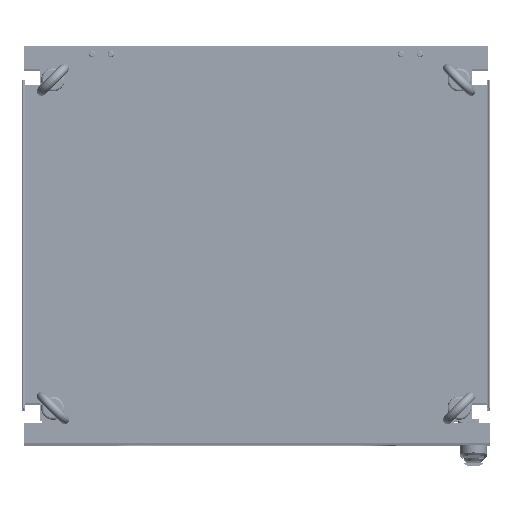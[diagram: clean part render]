
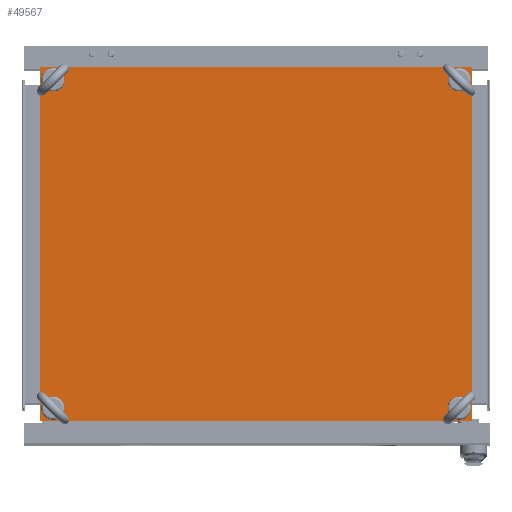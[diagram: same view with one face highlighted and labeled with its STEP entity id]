
A CAD part, top view. The second image highlights one B-rep face of the part: STEP entity #49567.
In plain terms, the highlighted planar face has unit normal (0, 0, 1).
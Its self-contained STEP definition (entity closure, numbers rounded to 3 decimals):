
#72=VERTEX_LOOP('',#34447);
#73=VERTEX_LOOP('',#34448);
#74=VERTEX_LOOP('',#34449);
#75=VERTEX_LOOP('',#34450);
#5651=LINE('',#79245,#10597);
#5652=LINE('',#79248,#10598);
#5653=LINE('',#79250,#10599);
#5654=LINE('',#79252,#10600);
#10597=VECTOR('',#65029,1000.);
#10598=VECTOR('',#65030,1000.);
#10599=VECTOR('',#65031,1000.);
#10600=VECTOR('',#65032,1000.);
#20616=ORIENTED_EDGE('',*,*,#29243,.F.);
#20617=ORIENTED_EDGE('',*,*,#29244,.F.);
#20618=ORIENTED_EDGE('',*,*,#29245,.F.);
#20619=ORIENTED_EDGE('',*,*,#29246,.F.);
#20620=ORIENTED_EDGE('',*,*,#29247,.F.);
#20621=ORIENTED_EDGE('',*,*,#29248,.F.);
#20622=ORIENTED_EDGE('',*,*,#29249,.F.);
#20623=ORIENTED_EDGE('',*,*,#29250,.F.);
#29243=EDGE_CURVE('',#34443,#34443,#36636,.T.);
#29244=EDGE_CURVE('',#34444,#34444,#36637,.T.);
#29245=EDGE_CURVE('',#34445,#34445,#36638,.T.);
#29246=EDGE_CURVE('',#34446,#34446,#36639,.T.);
#29247=EDGE_CURVE('',#34451,#34452,#5651,.T.);
#29248=EDGE_CURVE('',#34453,#34451,#5652,.T.);
#29249=EDGE_CURVE('',#34454,#34453,#5653,.T.);
#29250=EDGE_CURVE('',#34452,#34454,#5654,.T.);
#34443=VERTEX_POINT('',#79234);
#34444=VERTEX_POINT('',#79236);
#34445=VERTEX_POINT('',#79238);
#34446=VERTEX_POINT('',#79240);
#34447=VERTEX_POINT('',#79241);
#34448=VERTEX_POINT('',#79242);
#34449=VERTEX_POINT('',#79243);
#34450=VERTEX_POINT('',#79244);
#34451=VERTEX_POINT('',#79246);
#34452=VERTEX_POINT('',#79247);
#34453=VERTEX_POINT('',#79249);
#34454=VERTEX_POINT('',#79251);
#36636=CIRCLE('',#54816,6.5);
#36637=CIRCLE('',#54817,6.5);
#36638=CIRCLE('',#54818,6.5);
#36639=CIRCLE('',#54819,6.5);
#40183=EDGE_LOOP('',(#20616));
#40184=EDGE_LOOP('',(#20617));
#40185=EDGE_LOOP('',(#20618));
#40186=EDGE_LOOP('',(#20619));
#40187=EDGE_LOOP('',(#20620,#20621,#20622,#20623));
#44583=FACE_BOUND('',#40183,.T.);
#44584=FACE_BOUND('',#40184,.T.);
#44585=FACE_BOUND('',#40185,.T.);
#44586=FACE_BOUND('',#40186,.T.);
#44587=FACE_BOUND('',#72,.T.);
#44588=FACE_BOUND('',#73,.T.);
#44589=FACE_BOUND('',#74,.T.);
#44590=FACE_BOUND('',#75,.T.);
#44591=FACE_BOUND('',#40187,.T.);
#47489=PLANE('',#54815);
#49567=ADVANCED_FACE('',(#44583,#44584,#44585,#44586,#44587,#44588,#44589,
#44590,#44591),#47489,.F.);
#54815=AXIS2_PLACEMENT_3D('',#79232,#65019,#65020);
#54816=AXIS2_PLACEMENT_3D('',#79233,#65021,#65022);
#54817=AXIS2_PLACEMENT_3D('',#79235,#65023,#65024);
#54818=AXIS2_PLACEMENT_3D('',#79237,#65025,#65026);
#54819=AXIS2_PLACEMENT_3D('',#79239,#65027,#65028);
#65019=DIRECTION('',(0.,0.,-1.));
#65020=DIRECTION('',(-1.,0.,0.));
#65021=DIRECTION('',(0.,0.,1.));
#65022=DIRECTION('',(1.,0.,0.));
#65023=DIRECTION('',(0.,0.,1.));
#65024=DIRECTION('',(1.,0.,0.));
#65025=DIRECTION('',(0.,0.,1.));
#65026=DIRECTION('',(1.,0.,0.));
#65027=DIRECTION('',(0.,0.,1.));
#65028=DIRECTION('',(1.,0.,0.));
#65029=DIRECTION('',(0.,1.,0.));
#65030=DIRECTION('',(-1.,0.,0.));
#65031=DIRECTION('',(0.,-1.,0.));
#65032=DIRECTION('',(1.,0.,0.));
#79232=CARTESIAN_POINT('',(0.,0.,0.));
#79233=CARTESIAN_POINT('',(260.5,210.5,0.));
#79234=CARTESIAN_POINT('',(267.,210.5,0.));
#79235=CARTESIAN_POINT('',(-260.5,210.5,0.));
#79236=CARTESIAN_POINT('',(-254.,210.5,0.));
#79237=CARTESIAN_POINT('',(260.5,-210.5,0.));
#79238=CARTESIAN_POINT('',(267.,-210.5,0.));
#79239=CARTESIAN_POINT('',(-260.5,-210.5,0.));
#79240=CARTESIAN_POINT('',(-254.,-210.5,0.));
#79241=CARTESIAN_POINT('',(-274.2,-224.201,0.));
#79242=CARTESIAN_POINT('',(274.2,224.201,0.));
#79243=CARTESIAN_POINT('',(274.201,-224.201,0.));
#79244=CARTESIAN_POINT('',(-274.201,224.201,0.));
#79245=CARTESIAN_POINT('',(-277.,-227.,0.));
#79246=CARTESIAN_POINT('',(-277.,-227.,0.));
#79247=CARTESIAN_POINT('',(-277.,227.,0.));
#79248=CARTESIAN_POINT('',(277.,-227.,0.));
#79249=CARTESIAN_POINT('',(277.,-227.,0.));
#79250=CARTESIAN_POINT('',(277.,227.,0.));
#79251=CARTESIAN_POINT('',(277.,227.,0.));
#79252=CARTESIAN_POINT('',(-277.,227.,0.));
